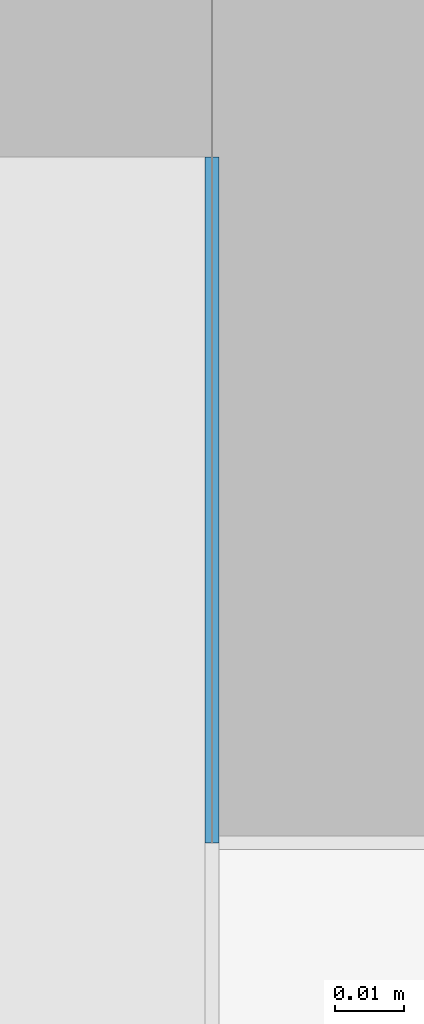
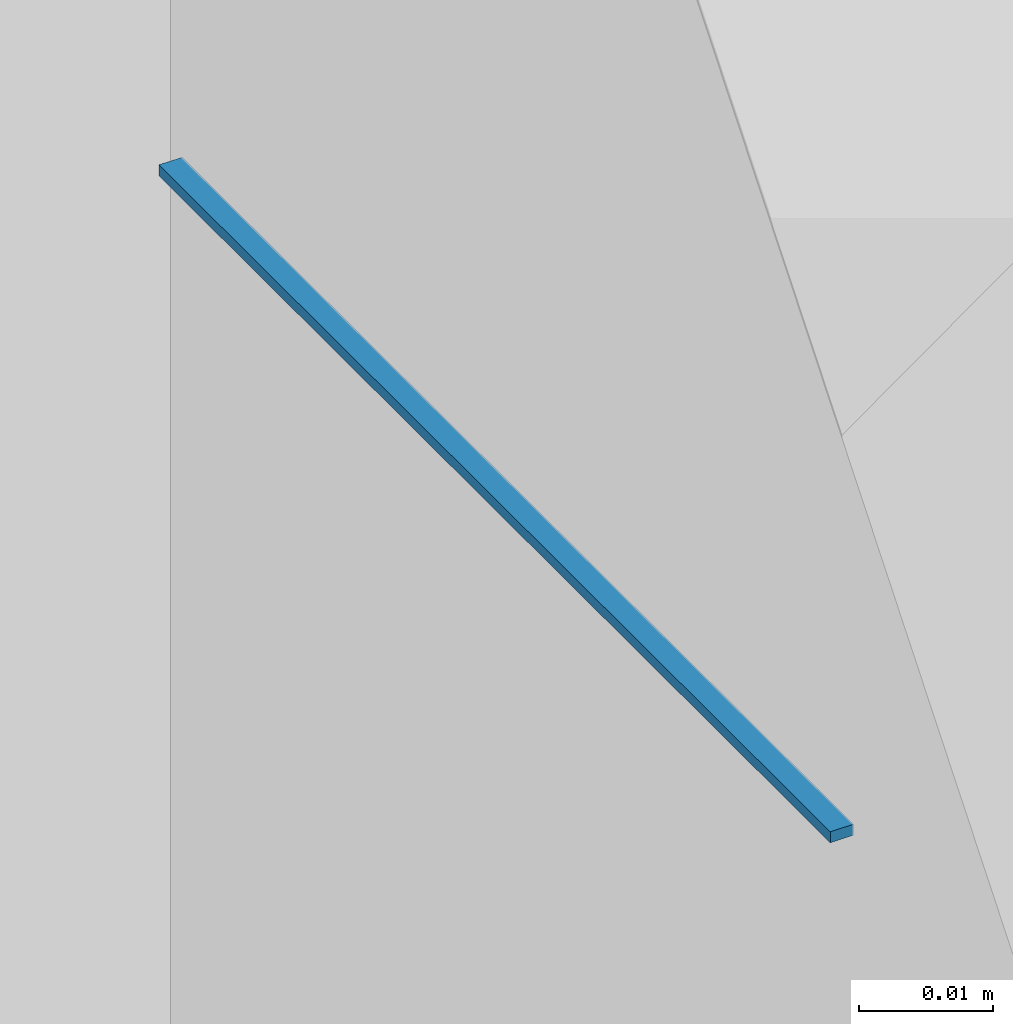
# One storey, part 8 of 17: 1 beam.
"""IFC2X3 building model written with IfcOpenShell, lengths in metres."""

from ifc_helpers import new_model, si_unit, direction, frame, origin_with_axes, place, context, subcontext, project, spatial, polyline, outline, extrude, material, type_object, element, save


model = new_model("IFC2X3")

# Units and contexts
model_context = context("Model", 3, precision=0.0001, world=origin_with_axes(), true_north=direction((0.0, 1.0)))
plan_context = context("Plan", 2, precision=0.0001, world=origin_with_axes(), true_north=direction((0.0, 1.0)))
body_context = subcontext(model_context, "Body", "Model", "MODEL_VIEW")
ifc_project = project(units=[si_unit("MASSUNIT", "GRAM", prefix="KILO"), si_unit("AREAUNIT", "SQUARE_METRE"), si_unit("LENGTHUNIT", "METRE"), si_unit("VOLUMEUNIT", "CUBIC_METRE")], contexts=[plan_context, model_context])

# Site, building, storey
site_placement = place(None, origin_with_axes())
site = spatial("IfcSite", under=ifc_project, at=site_placement, Name="$", CompositionType="ELEMENT")
building_placement = place(site_placement, origin_with_axes())
building = spatial("IfcBuilding", under=site, at=building_placement, Name="Classeur ENS Ensemble", CompositionType="ELEMENT")
storey_placement = place(building_placement, frame((-20.30778888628, -1.812671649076, 0.0), z_axis=(0.0, 0.0, 1.0), x_axis=(1.0, 0.0, 0.0)))
storey = spatial("IfcBuildingStorey", under=building, at=storey_placement, Name="001 RdC", CompositionType="ELEMENT", Elevation=0.0)

# Beam
ifc_material = material(Name="Default material")
beam_type = type_object("IfcBeamType", PredefinedType="BEAM")
beam_placement = place(storey_placement, frame((38.18329531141, -11.66732835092, 2.849999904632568), z_axis=(0.0, 0.0, 1.0), x_axis=(0.0, 1.0, 0.0)))
element("IfcBeam", 1, at=beam_placement, inside=storey, type_object=beam_type, material=ifc_material, Name="poutre fictive", context=body_context, shape_type="SweptSolid", held_by="IfcProductRepresentation", body=[
    extrude(outline(polyline([(0.0, 0.0009999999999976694), (0.0, 0.0009999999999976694), (0.0, 0.0009999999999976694), (0.09999999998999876, 0.0009999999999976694), (0.09999999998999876, 0.0009999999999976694), (0.09999999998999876, 0.0009999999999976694), (0.09999999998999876, -0.001000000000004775), (0.09999999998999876, -0.001000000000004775), (0.09999999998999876, -0.001000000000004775), (0.0, -0.001000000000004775), (0.0, -0.001000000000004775), (0.0, -0.001000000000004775), (0.0, 0.0009999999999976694)])), origin_with_axes(), (0.0, 0.0, 1.0), 0.001),
])

save(model, "model.ifc")
